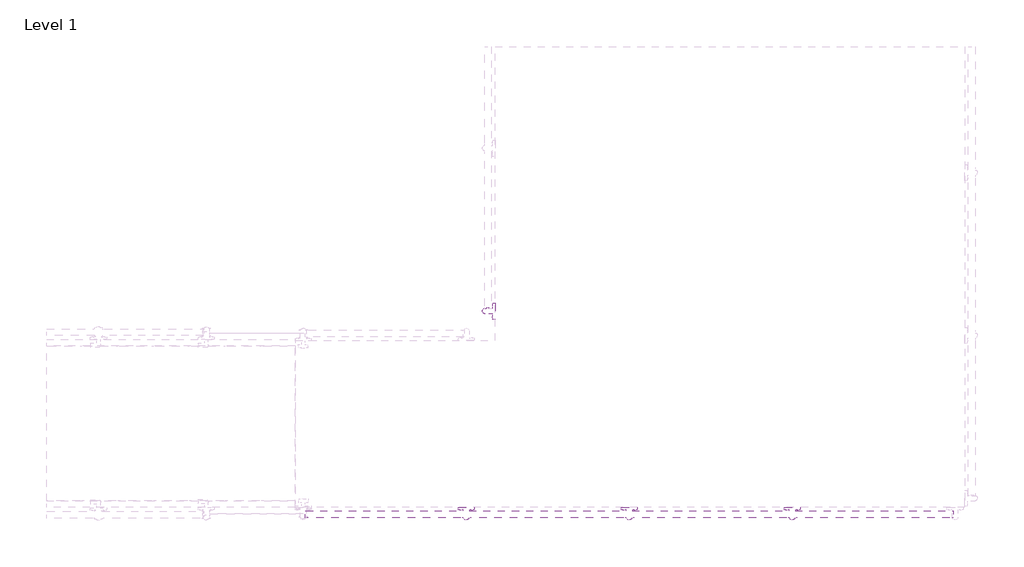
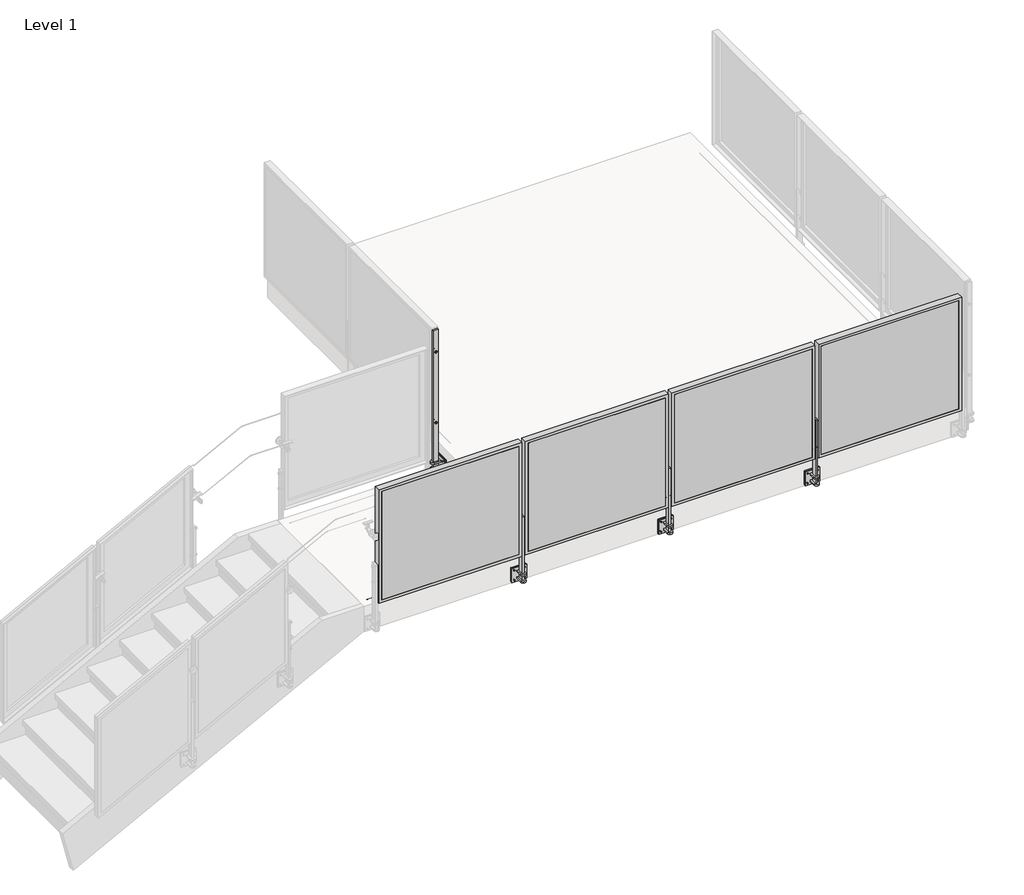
# One storey, part 26 of 37: 1 proxy, 1 railing.
"""IFC4 building model written with IfcOpenShell, lengths in millimetres."""

from ifc_helpers import new_model, si_unit, point, frame, frame_2d, origin, place, context, project, spatial, polyline, circle_curve, trimmed, segment, composite_curve, outline, extrude, faceted_brep, transform, mapped, element, save
from ifc_brep_helpers import plane_surface, cylinder_surface, advanced_brep
from components import baluster_end_post_viva_frame_top_mount_welded_fascia_mount_7cfda481

model = new_model("IFC4")

# Units and contexts
model_context = context("Model", 3, world=origin())
ifc_project = project(units=[si_unit("LENGTHUNIT", "METRE", prefix="MILLI")], contexts=[model_context])

# Site, building, storey
site = spatial("IfcSite", under=ifc_project)
building = spatial("IfcBuilding", under=site)
storey = spatial("IfcBuildingStorey", under=building, Name="Level 1", Elevation=0.0)

# Proxy
placement = place(None, origin())
baluster_end_post_viva_frame_top_mount_welded_fascia_mount_shape = baluster_end_post_viva_frame_top_mount_welded_fascia_mount_7cfda481(model_context)
element("IfcBuildingElementProxy", 1, Name="Baluster-End-Post-VIVA-FRAME-Top Mount : WELDED Fascia MOUNT FOLD_STRAIGHT", ObjectType="Baluster-End-Post-VIVA-FRAME-Top Mount : WELDED Fascia MOUNT FOLD_STRAIGHT", at=placement, inside=storey, context=model_context, shape_type="MappedRepresentation", body=[
    mapped(baluster_end_post_viva_frame_top_mount_welded_fascia_mount_shape, transform((-5845.6776401, -2383.0312725, 3047.492), x_axis=(0.0, -1.0, 0.0), y_axis=(1.0, 0.0, 0.0), z_axis=(0.0, 0.0, 1.0))),
])

# Railing
element("IfcRailing", 2, ObjectType="Metal-Panel-VIVA-FRAME-Fascia-Straight", at=placement, inside=storey, context=model_context, shape_type="SolidModel", body=[
    extrude(outline(composite_curve([segment(trimmed(circle_curve(frame_2d((-3841.0034112, 3047.746)), 0.254), [point((-3841.2574112, 3047.746))], [point((-3840.7494112, 3047.746))], False, "CARTESIAN"), True, "CONTINUOUS"), segment(trimmed(circle_curve(frame_2d((-3841.0034112, 3047.746)), 0.254), [point((-3840.7494112, 3047.746))], [point((-3841.2574112, 3047.746))], False, "CARTESIAN"), True, "CONTINUOUS")], self_intersect=False)), frame((-7412.9434339, 0.0, 0.0), z_axis=(1.0, 0.0, 0.0), x_axis=(0.0, 1.0, 0.0)), (0.0, 0.0, 1.0), 5080.0),
    extrude(outline(composite_curve([segment(trimmed(circle_curve(frame_2d((-3841.0034112, 3047.746)), 0.254), [point((-3841.2574112, 3047.746))], [point((-3840.7494112, 3047.746))], False, "CARTESIAN"), True, "CONTINUOUS"), segment(trimmed(circle_curve(frame_2d((-3841.0034112, 3047.746)), 0.254), [point((-3840.7494112, 3047.746))], [point((-3841.2574112, 3047.746))], False, "CARTESIAN"), True, "CONTINUOUS")], self_intersect=False)), frame((-7412.9434339, 0.0, 0.0), z_axis=(1.0, 0.0, 0.0), x_axis=(0.0, 1.0, 0.0)), (0.0, 0.0, 1.0), 5080.0),
    extrude(outline(polyline([(-3562.1169769, -3995.4622112), (-3562.1169769, -3992.4622112), (-2373.7698908, -3992.4622112), (-2373.7698908, -3995.4622112), (-3562.1169769, -3995.4622112)])), frame((0.0, 0.0, 3124.1959569), z_axis=(0.0, 0.0, 1.0), x_axis=(1.0, 0.0, 0.0)), (0.0, 0.0, 1.0), 990.5826861),
    faceted_brep([(-3587.5169769, -3995.4622112, 4140.1786431), (-3587.5169769, -3995.4622112, 3098.7959569), (-2348.3698908, -3995.4622112, 3098.7959569), (-2348.3698908, -3995.4622112, 4140.1786431), (-3562.1169769, -3995.4622112, 4114.7786431), (-2373.7698908, -3995.4622112, 4114.7786431), (-2373.7698908, -3995.4622112, 3124.1959569), (-3562.1169769, -3995.4622112, 3124.1959569), (-2373.7698908, -3992.4622112, 3124.1959569), (-3562.1169769, -3992.4622112, 3124.1959569), (-2373.7698908, -3992.4622112, 4114.7786431), (-3562.1169769, -3992.4622112, 4114.7786431), (-3581.5225769, -3941.6622112, 3104.7903569), (-3581.5225769, -3972.4724112, 3104.7903569), (-2354.3642908, -3972.4724112, 3104.7903569), (-2354.3642908, -3941.6622112, 3104.7903569), (-2354.3642908, -3972.4724112, 4134.1842431), (-2354.3642908, -3941.6622112, 4134.1842431), (-3581.5225769, -3941.6622112, 4134.1842431), (-3581.5225769, -3972.4724112, 4134.1842431), (-2348.3698908, -3941.6622112, 3098.7959569), (-3587.5169769, -3941.6622112, 3098.7959569), (-3587.5169769, -3941.6622112, 4140.1786431), (-2348.3698908, -3941.6622112, 4140.1786431), (-3536.7169769, -3992.4622112, 4089.3786431), (-2399.1698908, -3992.4622112, 4089.3786431), (-2399.1698908, -3992.4622112, 3149.5959569), (-3536.7169769, -3992.4622112, 3149.5959569), (-2399.1698908, -3972.4724112, 3149.5959569), (-2399.1698908, -3972.4724112, 4089.3786431), (-3536.7169769, -3972.4724112, 4089.3786431), (-3536.7169769, -3972.4724112, 3149.5959569)], [[[0, 1, 2, 3], [4, 5, 6, 7]], [[7, 6, 8, 9]], [[6, 5, 10, 8]], [[5, 4, 11, 10]], [[4, 7, 9, 11]], [[12, 13, 14, 15]], [[15, 14, 16, 17]], [[13, 12, 18, 19]], [[20, 21, 22, 23], [12, 15, 17, 18]], [[21, 1, 0, 22]], [[21, 20, 2, 1]], [[2, 20, 23, 3]], [[22, 0, 3, 23]], [[11, 9, 8, 10], [24, 25, 26, 27]], [[14, 13, 19, 16], [28, 29, 30, 31]], [[19, 18, 17, 16]], [[25, 24, 30, 29]], [[26, 25, 29, 28]], [[27, 26, 28, 31]], [[24, 27, 31, 30]]]),
    extrude(outline(composite_curve([segment(polyline([(-3625.1684339, -3989.8871179), (-3625.1684339, -3931.9862112), (-3580.7184339, -3931.9862112), (-3580.7184339, -3989.8871179)]), True, "CONTINUOUS"), segment(trimmed(circle_curve(frame_2d((-3602.9434339, -3989.8871179)), 22.225), [point((-3580.7184339, -3989.8871179))], [point((-3625.1684339, -3989.8871179))], False, "CARTESIAN"), True, "CONTINUOUS")], self_intersect=False)), frame((0.0, 0.0, 2859.0748), z_axis=(0.0, 0.0, 1.0), x_axis=(1.0, 0.0, 0.0)), (0.0, 0.0, 1.0), 12.7),
    extrude(outline(composite_curve([segment(polyline([(-3580.7184339, -3931.9862112), (-3580.7184339, -3989.8871179)]), True, "CONTINUOUS"), segment(trimmed(circle_curve(frame_2d((-3602.9434339, -3989.8871179)), 22.225), [point((-3580.7184339, -3989.8871179))], [point((-3625.1684339, -3989.8871179))], False, "CARTESIAN"), True, "CONTINUOUS"), segment(polyline([(-3625.1684339, -3989.8871179), (-3625.1684339, -3931.9862112), (-3580.7184339, -3931.9862112)]), True, "CONTINUOUS")], self_intersect=False)), frame((0.0, 0.0, 2921.0), z_axis=(0.0, 0.0, 1.0), x_axis=(1.0, 0.0, 0.0)), (0.0, 0.0, 1.0), 12.7),
    extrude(outline(composite_curve([segment(trimmed(circle_curve(frame_2d((2941.6502, -3558.498502)), 4.7752), [point((2941.6502, -3553.723302))], [point((2941.6502, -3563.273702))], False, "CARTESIAN"), True, "CONTINUOUS"), segment(trimmed(circle_curve(frame_2d((2941.6502, -3558.498502)), 4.7752), [point((2941.6502, -3563.273702))], [point((2941.6502, -3553.723302))], False, "CARTESIAN"), True, "CONTINUOUS")], self_intersect=False)), frame((0.0, -3936.7614112, 0.0), z_axis=(0.0, 1.0, 0.0), x_axis=(0.0, 0.0, 1.0)), (0.0, 0.0, 1.0), 14.3002),
    extrude(outline(composite_curve([segment(trimmed(circle_curve(frame_2d((2941.6502, -3647.3883657)), 4.7752), [point((2941.6502, -3642.6131657))], [point((2941.6502, -3652.1635657))], False, "CARTESIAN"), True, "CONTINUOUS"), segment(trimmed(circle_curve(frame_2d((2941.6502, -3647.3883657)), 4.7752), [point((2941.6502, -3652.1635657))], [point((2941.6502, -3642.6131657))], False, "CARTESIAN"), True, "CONTINUOUS")], self_intersect=False)), frame((0.0, -3936.7614112, 0.0), z_axis=(0.0, 1.0, 0.0), x_axis=(0.0, 0.0, 1.0)), (0.0, 0.0, 1.0), 14.3002),
    extrude(outline(composite_curve([segment(trimmed(circle_curve(frame_2d((2852.7502, -3647.3883657)), 4.7752), [point((2852.7502, -3642.6131657))], [point((2852.7502, -3652.1635657))], False, "CARTESIAN"), True, "CONTINUOUS"), segment(trimmed(circle_curve(frame_2d((2852.7502, -3647.3883657)), 4.7752), [point((2852.7502, -3652.1635657))], [point((2852.7502, -3642.6131657))], False, "CARTESIAN"), True, "CONTINUOUS")], self_intersect=False)), frame((0.0, -3936.7614112, 0.0), z_axis=(0.0, 1.0, 0.0), x_axis=(0.0, 0.0, 1.0)), (0.0, 0.0, 1.0), 14.3002),
    extrude(outline(composite_curve([segment(trimmed(circle_curve(frame_2d((2852.7502, -3558.498502)), 4.7752), [point((2852.7502, -3553.723302))], [point((2852.7502, -3563.273702))], False, "CARTESIAN"), True, "CONTINUOUS"), segment(trimmed(circle_curve(frame_2d((2852.7502, -3558.498502)), 4.7752), [point((2852.7502, -3563.273702))], [point((2852.7502, -3553.723302))], False, "CARTESIAN"), True, "CONTINUOUS")], self_intersect=False)), frame((0.0, -3936.7614112, 0.0), z_axis=(0.0, 1.0, 0.0), x_axis=(0.0, 0.0, 1.0)), (0.0, 0.0, 1.0), 14.3002),
    extrude(outline(polyline([(-3539.4454123, -3922.4612112), (-3666.4414554, -3922.4612112), (-3666.4414554, -3912.9362112), (-3539.4454123, -3912.9362112), (-3539.4454123, -3922.4612112)])), frame((0.0, 0.0, 2833.7002), z_axis=(0.0, 0.0, 1.0), x_axis=(1.0, 0.0, 0.0)), (0.0, 0.0, 1.0), 127.0),
    extrude(outline(polyline([(-3539.4454123, -3931.9862112), (-3666.4414554, -3931.9862112), (-3666.4414554, -3922.4612112), (-3539.4454123, -3922.4612112), (-3539.4454123, -3931.9862112)])), frame((0.0, 0.0, 2833.7002), z_axis=(0.0, 0.0, 1.0), x_axis=(1.0, 0.0, 0.0)), (0.0, 0.0, 1.0), 127.0),
    advanced_brep(
    [(-3629.1308339, -3970.0862112, 3178.1496), (-3629.1308339, -3970.0862112, 3197.2504), (-3629.1308339, -3970.0862112, 3187.7), (-3624.3556339, -3970.0862112, 3178.1496), (-3624.3556339, -3970.0862112, 3197.2504), (-3624.3556339, -3970.0862112, 3182.9248), (-3624.3556339, -3970.0862112, 3192.4752), (-3581.5312339, -3970.0862112, 3182.9248), (-3581.5312339, -3970.0862112, 3192.4752), (-3581.5312339, -3970.0862112, 3178.1496), (-3581.5312339, -3970.0862112, 3197.2504), (-3576.7560339, -3970.0862112, 3178.1496), (-3576.7560339, -3970.0862112, 3197.2504), (-3576.7560339, -3970.0862112, 3187.7)],
    [
        (0, 1, circle_curve(frame((-3629.1308339, -3970.0862112, 3187.7), z_axis=(-1.0, 0.0, 0.0), x_axis=(0.0, 0.0, 1.0)), 9.5504)),
        (1, 2),
        (2, 0),
        (1, 0, circle_curve(frame((-3629.1308339, -3970.0862112, 3187.7), z_axis=(-1.0, 0.0, 0.0), x_axis=(0.0, 0.0, 1.0)), 9.5504)),
        (3, 4, circle_curve(frame((-3624.3556339, -3970.0862112, 3187.7), z_axis=(-1.0, 0.0, 0.0), x_axis=(0.0, 0.0, 1.0)), 9.5504)),
        (4, 1),
        (0, 3),
        (4, 3, circle_curve(frame((-3624.3556339, -3970.0862112, 3187.7), z_axis=(-1.0, 0.0, 0.0), x_axis=(0.0, 0.0, 1.0)), 9.5504)),
        (5, 6, circle_curve(frame((-3624.3556339, -3970.0862112, 3187.7), z_axis=(-1.0, 0.0, 0.0), x_axis=(0.0, 0.0, 1.0)), 4.7752)),
        (6, 4),
        (3, 5),
        (6, 5, circle_curve(frame((-3624.3556339, -3970.0862112, 3187.7), z_axis=(-1.0, 0.0, 0.0), x_axis=(0.0, 0.0, 1.0)), 4.7752)),
        (7, 8, circle_curve(frame((-3581.5312339, -3970.0862112, 3187.7), z_axis=(-1.0, 0.0, 0.0), x_axis=(0.0, 0.0, 1.0)), 4.7752)),
        (8, 6),
        (5, 7),
        (8, 7, circle_curve(frame((-3581.5312339, -3970.0862112, 3187.7), z_axis=(-1.0, 0.0, 0.0), x_axis=(0.0, 0.0, 1.0)), 4.7752)),
        (9, 10, circle_curve(frame((-3581.5312339, -3970.0862112, 3187.7), z_axis=(-1.0, 0.0, 0.0), x_axis=(0.0, 0.0, 1.0)), 9.5504)),
        (10, 8),
        (7, 9),
        (10, 9, circle_curve(frame((-3581.5312339, -3970.0862112, 3187.7), z_axis=(-1.0, 0.0, 0.0), x_axis=(0.0, 0.0, 1.0)), 9.5504)),
        (11, 12, circle_curve(frame((-3576.7560339, -3970.0862112, 3187.7), z_axis=(-1.0, 0.0, 0.0), x_axis=(0.0, 0.0, 1.0)), 9.5504)),
        (12, 10),
        (9, 11),
        (12, 11, circle_curve(frame((-3576.7560339, -3970.0862112, 3187.7), z_axis=(-1.0, 0.0, 0.0), x_axis=(0.0, 0.0, 1.0)), 9.5504)),
        (13, 12),
        (11, 13),
    ],
    [
        plane_surface(frame((-3629.1308339, -3970.0862112, 3187.7), z_axis=(-1.0, 0.0, 0.0), x_axis=(0.0, 0.0, 1.0))),
        cylinder_surface(frame((-7020.711191, -3970.0862112, 3187.7), z_axis=(1.0, 0.0, 0.0), x_axis=(0.0, 0.0, 1.0)), 9.5504),
        plane_surface(frame((-3624.3556339, -3970.0862112, 3187.7), z_axis=(1.0, 0.0, 0.0), x_axis=(0.0, 0.0, 1.0))),
        cylinder_surface(frame((-7020.711191, -3970.0862112, 3187.7), z_axis=(1.0, 0.0, 0.0), x_axis=(0.0, 0.0, 1.0)), 4.7752),
        plane_surface(frame((-3581.5312339, -3970.0862112, 3187.7), z_axis=(-1.0, 0.0, 0.0), x_axis=(0.0, 0.0, 1.0))),
        plane_surface(frame((-3576.7560339, -3970.0862112, 3187.7), z_axis=(1.0, 0.0, 0.0), x_axis=(0.0, 0.0, 1.0))),
    ],
    [
        (0, [[1, 2, 3]]),
        (0, [[4, -3, -2]]),
        (1, [[5, 6, -1, 7]]),
        (1, [[8, -7, -4, -6]]),
        (2, [[9, 10, -5, 11]]),
        (2, [[12, -11, -8, -10]]),
        (3, [[13, 14, -9, 15]]),
        (3, [[16, -15, -12, -14]]),
        (4, [[17, 18, -13, 19]]),
        (4, [[20, -19, -16, -18]]),
        (1, [[21, 22, -17, 23]]),
        (1, [[24, -23, -20, -22]]),
        (5, [[25, -21, 26]]),
        (5, [[-26, -24, -25]]),
    ],
),
    advanced_brep(
    [(-3629.1308339, -3970.0862112, 3419.4496), (-3629.1308339, -3970.0862112, 3438.5504), (-3629.1308339, -3970.0862112, 3429.0), (-3624.3556339, -3970.0862112, 3419.4496), (-3624.3556339, -3970.0862112, 3438.5504), (-3624.3556339, -3970.0862112, 3424.2248), (-3624.3556339, -3970.0862112, 3433.7752), (-3581.5312339, -3970.0862112, 3424.2248), (-3581.5312339, -3970.0862112, 3433.7752), (-3581.5312339, -3970.0862112, 3419.4496), (-3581.5312339, -3970.0862112, 3438.5504), (-3576.7560339, -3970.0862112, 3419.4496), (-3576.7560339, -3970.0862112, 3438.5504), (-3576.7560339, -3970.0862112, 3429.0)],
    [
        (0, 1, circle_curve(frame((-3629.1308339, -3970.0862112, 3429.0), z_axis=(-1.0, 0.0, 0.0), x_axis=(0.0, 0.0, 1.0)), 9.5504)),
        (1, 2),
        (2, 0),
        (1, 0, circle_curve(frame((-3629.1308339, -3970.0862112, 3429.0), z_axis=(-1.0, 0.0, 0.0), x_axis=(0.0, 0.0, 1.0)), 9.5504)),
        (3, 4, circle_curve(frame((-3624.3556339, -3970.0862112, 3429.0), z_axis=(-1.0, 0.0, 0.0), x_axis=(0.0, 0.0, 1.0)), 9.5504)),
        (4, 1),
        (0, 3),
        (4, 3, circle_curve(frame((-3624.3556339, -3970.0862112, 3429.0), z_axis=(-1.0, 0.0, 0.0), x_axis=(0.0, 0.0, 1.0)), 9.5504)),
        (5, 6, circle_curve(frame((-3624.3556339, -3970.0862112, 3429.0), z_axis=(-1.0, 0.0, 0.0), x_axis=(0.0, 0.0, 1.0)), 4.7752)),
        (6, 4),
        (3, 5),
        (6, 5, circle_curve(frame((-3624.3556339, -3970.0862112, 3429.0), z_axis=(-1.0, 0.0, 0.0), x_axis=(0.0, 0.0, 1.0)), 4.7752)),
        (7, 8, circle_curve(frame((-3581.5312339, -3970.0862112, 3429.0), z_axis=(-1.0, 0.0, 0.0), x_axis=(0.0, 0.0, 1.0)), 4.7752)),
        (8, 6),
        (5, 7),
        (8, 7, circle_curve(frame((-3581.5312339, -3970.0862112, 3429.0), z_axis=(-1.0, 0.0, 0.0), x_axis=(0.0, 0.0, 1.0)), 4.7752)),
        (9, 10, circle_curve(frame((-3581.5312339, -3970.0862112, 3429.0), z_axis=(-1.0, 0.0, 0.0), x_axis=(0.0, 0.0, 1.0)), 9.5504)),
        (10, 8),
        (7, 9),
        (10, 9, circle_curve(frame((-3581.5312339, -3970.0862112, 3429.0), z_axis=(-1.0, 0.0, 0.0), x_axis=(0.0, 0.0, 1.0)), 9.5504)),
        (11, 12, circle_curve(frame((-3576.7560339, -3970.0862112, 3429.0), z_axis=(-1.0, 0.0, 0.0), x_axis=(0.0, 0.0, 1.0)), 9.5504)),
        (12, 10),
        (9, 11),
        (12, 11, circle_curve(frame((-3576.7560339, -3970.0862112, 3429.0), z_axis=(-1.0, 0.0, 0.0), x_axis=(0.0, 0.0, 1.0)), 9.5504)),
        (13, 12),
        (11, 13),
    ],
    [
        plane_surface(frame((-3629.1308339, -3970.0862112, 3429.0), z_axis=(-1.0, 0.0, 0.0), x_axis=(0.0, 0.0, 1.0))),
        cylinder_surface(frame((-7020.711191, -3970.0862112, 3429.0), z_axis=(1.0, 0.0, 0.0), x_axis=(0.0, 0.0, 1.0)), 9.5504),
        plane_surface(frame((-3624.3556339, -3970.0862112, 3429.0), z_axis=(1.0, 0.0, 0.0), x_axis=(0.0, 0.0, 1.0))),
        cylinder_surface(frame((-7020.711191, -3970.0862112, 3429.0), z_axis=(1.0, 0.0, 0.0), x_axis=(0.0, 0.0, 1.0)), 4.7752),
        plane_surface(frame((-3581.5312339, -3970.0862112, 3429.0), z_axis=(-1.0, 0.0, 0.0), x_axis=(0.0, 0.0, 1.0))),
        plane_surface(frame((-3576.7560339, -3970.0862112, 3429.0), z_axis=(1.0, 0.0, 0.0), x_axis=(0.0, 0.0, 1.0))),
    ],
    [
        (0, [[1, 2, 3]]),
        (0, [[4, -3, -2]]),
        (1, [[5, 6, -1, 7]]),
        (1, [[8, -7, -4, -6]]),
        (2, [[9, 10, -5, 11]]),
        (2, [[12, -11, -8, -10]]),
        (3, [[13, 14, -9, 15]]),
        (3, [[16, -15, -12, -14]]),
        (4, [[17, 18, -13, 19]]),
        (4, [[20, -19, -16, -18]]),
        (1, [[21, 22, -17, 23]]),
        (1, [[24, -23, -20, -22]]),
        (5, [[25, -21, 26]]),
        (5, [[-26, -24, -25]]),
    ],
),
    extrude(outline(polyline([(-3610.8830255, -3947.8612112), (-3595.0038422, -3947.8612112), (-3595.0038422, -3992.3112112), (-3610.8830255, -3992.3112112), (-3610.8830255, -3947.8612112)])), frame((0.0, 0.0, 2865.4248), z_axis=(0.0, 0.0, 1.0), x_axis=(1.0, 0.0, 0.0)), (0.0, 0.0, 1.0), 588.9752),
    extrude(outline(polyline([(-4832.1169769, -3995.4622112), (-4832.1169769, -3992.4622112), (-3643.7698908, -3992.4622112), (-3643.7698908, -3995.4622112), (-4832.1169769, -3995.4622112)])), frame((0.0, 0.0, 3124.1959569), z_axis=(0.0, 0.0, 1.0), x_axis=(1.0, 0.0, 0.0)), (0.0, 0.0, 1.0), 990.5826861),
    faceted_brep([(-4857.5169769, -3995.4622112, 4140.1786431), (-4857.5169769, -3995.4622112, 3098.7959569), (-3618.3698908, -3995.4622112, 3098.7959569), (-3618.3698908, -3995.4622112, 4140.1786431), (-4832.1169769, -3995.4622112, 4114.7786431), (-3643.7698908, -3995.4622112, 4114.7786431), (-3643.7698908, -3995.4622112, 3124.1959569), (-4832.1169769, -3995.4622112, 3124.1959569), (-3643.7698908, -3992.4622112, 3124.1959569), (-4832.1169769, -3992.4622112, 3124.1959569), (-3643.7698908, -3992.4622112, 4114.7786431), (-4832.1169769, -3992.4622112, 4114.7786431), (-4851.5225769, -3941.6622112, 3104.7903569), (-4851.5225769, -3972.4724112, 3104.7903569), (-3624.3642908, -3972.4724112, 3104.7903569), (-3624.3642908, -3941.6622112, 3104.7903569), (-3624.3642908, -3972.4724112, 4134.1842431), (-3624.3642908, -3941.6622112, 4134.1842431), (-4851.5225769, -3941.6622112, 4134.1842431), (-4851.5225769, -3972.4724112, 4134.1842431), (-3618.3698908, -3941.6622112, 3098.7959569), (-4857.5169769, -3941.6622112, 3098.7959569), (-4857.5169769, -3941.6622112, 4140.1786431), (-3618.3698908, -3941.6622112, 4140.1786431), (-4806.7169769, -3992.4622112, 4089.3786431), (-3669.1698908, -3992.4622112, 4089.3786431), (-3669.1698908, -3992.4622112, 3149.5959569), (-4806.7169769, -3992.4622112, 3149.5959569), (-3669.1698908, -3972.4724112, 3149.5959569), (-3669.1698908, -3972.4724112, 4089.3786431), (-4806.7169769, -3972.4724112, 4089.3786431), (-4806.7169769, -3972.4724112, 3149.5959569)], [[[0, 1, 2, 3], [4, 5, 6, 7]], [[7, 6, 8, 9]], [[6, 5, 10, 8]], [[5, 4, 11, 10]], [[4, 7, 9, 11]], [[12, 13, 14, 15]], [[15, 14, 16, 17]], [[13, 12, 18, 19]], [[20, 21, 22, 23], [12, 15, 17, 18]], [[21, 1, 0, 22]], [[21, 20, 2, 1]], [[2, 20, 23, 3]], [[22, 0, 3, 23]], [[11, 9, 8, 10], [24, 25, 26, 27]], [[14, 13, 19, 16], [28, 29, 30, 31]], [[19, 18, 17, 16]], [[25, 24, 30, 29]], [[26, 25, 29, 28]], [[27, 26, 28, 31]], [[24, 27, 31, 30]]]),
    extrude(outline(composite_curve([segment(polyline([(-4895.1684339, -3989.8871179), (-4895.1684339, -3931.9862112), (-4850.7184339, -3931.9862112), (-4850.7184339, -3989.8871179)]), True, "CONTINUOUS"), segment(trimmed(circle_curve(frame_2d((-4872.9434339, -3989.8871179)), 22.225), [point((-4850.7184339, -3989.8871179))], [point((-4895.1684339, -3989.8871179))], False, "CARTESIAN"), True, "CONTINUOUS")], self_intersect=False)), frame((0.0, 0.0, 2859.0748), z_axis=(0.0, 0.0, 1.0), x_axis=(1.0, 0.0, 0.0)), (0.0, 0.0, 1.0), 12.7),
    extrude(outline(composite_curve([segment(polyline([(-4850.7184339, -3931.9862112), (-4850.7184339, -3989.8871179)]), True, "CONTINUOUS"), segment(trimmed(circle_curve(frame_2d((-4872.9434339, -3989.8871179)), 22.225), [point((-4850.7184339, -3989.8871179))], [point((-4895.1684339, -3989.8871179))], False, "CARTESIAN"), True, "CONTINUOUS"), segment(polyline([(-4895.1684339, -3989.8871179), (-4895.1684339, -3931.9862112), (-4850.7184339, -3931.9862112)]), True, "CONTINUOUS")], self_intersect=False)), frame((0.0, 0.0, 2921.0), z_axis=(0.0, 0.0, 1.0), x_axis=(1.0, 0.0, 0.0)), (0.0, 0.0, 1.0), 12.7),
    extrude(outline(composite_curve([segment(trimmed(circle_curve(frame_2d((2941.6502, -4828.498502)), 4.7752), [point((2941.6502, -4823.723302))], [point((2941.6502, -4833.273702))], False, "CARTESIAN"), True, "CONTINUOUS"), segment(trimmed(circle_curve(frame_2d((2941.6502, -4828.498502)), 4.7752), [point((2941.6502, -4833.273702))], [point((2941.6502, -4823.723302))], False, "CARTESIAN"), True, "CONTINUOUS")], self_intersect=False)), frame((0.0, -3936.7614112, 0.0), z_axis=(0.0, 1.0, 0.0), x_axis=(0.0, 0.0, 1.0)), (0.0, 0.0, 1.0), 14.3002),
    extrude(outline(composite_curve([segment(trimmed(circle_curve(frame_2d((2941.6502, -4917.3883657)), 4.7752), [point((2941.6502, -4912.6131657))], [point((2941.6502, -4922.1635657))], False, "CARTESIAN"), True, "CONTINUOUS"), segment(trimmed(circle_curve(frame_2d((2941.6502, -4917.3883657)), 4.7752), [point((2941.6502, -4922.1635657))], [point((2941.6502, -4912.6131657))], False, "CARTESIAN"), True, "CONTINUOUS")], self_intersect=False)), frame((0.0, -3936.7614112, 0.0), z_axis=(0.0, 1.0, 0.0), x_axis=(0.0, 0.0, 1.0)), (0.0, 0.0, 1.0), 14.3002),
    extrude(outline(composite_curve([segment(trimmed(circle_curve(frame_2d((2852.7502, -4917.3883657)), 4.7752), [point((2852.7502, -4912.6131657))], [point((2852.7502, -4922.1635657))], False, "CARTESIAN"), True, "CONTINUOUS"), segment(trimmed(circle_curve(frame_2d((2852.7502, -4917.3883657)), 4.7752), [point((2852.7502, -4922.1635657))], [point((2852.7502, -4912.6131657))], False, "CARTESIAN"), True, "CONTINUOUS")], self_intersect=False)), frame((0.0, -3936.7614112, 0.0), z_axis=(0.0, 1.0, 0.0), x_axis=(0.0, 0.0, 1.0)), (0.0, 0.0, 1.0), 14.3002),
    extrude(outline(composite_curve([segment(trimmed(circle_curve(frame_2d((2852.7502, -4828.498502)), 4.7752), [point((2852.7502, -4823.723302))], [point((2852.7502, -4833.273702))], False, "CARTESIAN"), True, "CONTINUOUS"), segment(trimmed(circle_curve(frame_2d((2852.7502, -4828.498502)), 4.7752), [point((2852.7502, -4833.273702))], [point((2852.7502, -4823.723302))], False, "CARTESIAN"), True, "CONTINUOUS")], self_intersect=False)), frame((0.0, -3936.7614112, 0.0), z_axis=(0.0, 1.0, 0.0), x_axis=(0.0, 0.0, 1.0)), (0.0, 0.0, 1.0), 14.3002),
    extrude(outline(polyline([(-4809.4454123, -3922.4612112), (-4936.4414554, -3922.4612112), (-4936.4414554, -3912.9362112), (-4809.4454123, -3912.9362112), (-4809.4454123, -3922.4612112)])), frame((0.0, 0.0, 2833.7002), z_axis=(0.0, 0.0, 1.0), x_axis=(1.0, 0.0, 0.0)), (0.0, 0.0, 1.0), 127.0),
    extrude(outline(polyline([(-4809.4454123, -3931.9862112), (-4936.4414554, -3931.9862112), (-4936.4414554, -3922.4612112), (-4809.4454123, -3922.4612112), (-4809.4454123, -3931.9862112)])), frame((0.0, 0.0, 2833.7002), z_axis=(0.0, 0.0, 1.0), x_axis=(1.0, 0.0, 0.0)), (0.0, 0.0, 1.0), 127.0),
    advanced_brep(
    [(-4899.1308339, -3970.0862112, 3178.1496), (-4899.1308339, -3970.0862112, 3197.2504), (-4899.1308339, -3970.0862112, 3187.7), (-4894.3556339, -3970.0862112, 3178.1496), (-4894.3556339, -3970.0862112, 3197.2504), (-4894.3556339, -3970.0862112, 3182.9248), (-4894.3556339, -3970.0862112, 3192.4752), (-4851.5312339, -3970.0862112, 3182.9248), (-4851.5312339, -3970.0862112, 3192.4752), (-4851.5312339, -3970.0862112, 3178.1496), (-4851.5312339, -3970.0862112, 3197.2504), (-4846.7560339, -3970.0862112, 3178.1496), (-4846.7560339, -3970.0862112, 3197.2504), (-4846.7560339, -3970.0862112, 3187.7)],
    [
        (0, 1, circle_curve(frame((-4899.1308339, -3970.0862112, 3187.7), z_axis=(-1.0, 0.0, 0.0), x_axis=(0.0, 0.0, 1.0)), 9.5504)),
        (1, 2),
        (2, 0),
        (1, 0, circle_curve(frame((-4899.1308339, -3970.0862112, 3187.7), z_axis=(-1.0, 0.0, 0.0), x_axis=(0.0, 0.0, 1.0)), 9.5504)),
        (3, 4, circle_curve(frame((-4894.3556339, -3970.0862112, 3187.7), z_axis=(-1.0, 0.0, 0.0), x_axis=(0.0, 0.0, 1.0)), 9.5504)),
        (4, 1),
        (0, 3),
        (4, 3, circle_curve(frame((-4894.3556339, -3970.0862112, 3187.7), z_axis=(-1.0, 0.0, 0.0), x_axis=(0.0, 0.0, 1.0)), 9.5504)),
        (5, 6, circle_curve(frame((-4894.3556339, -3970.0862112, 3187.7), z_axis=(-1.0, 0.0, 0.0), x_axis=(0.0, 0.0, 1.0)), 4.7752)),
        (6, 4),
        (3, 5),
        (6, 5, circle_curve(frame((-4894.3556339, -3970.0862112, 3187.7), z_axis=(-1.0, 0.0, 0.0), x_axis=(0.0, 0.0, 1.0)), 4.7752)),
        (7, 8, circle_curve(frame((-4851.5312339, -3970.0862112, 3187.7), z_axis=(-1.0, 0.0, 0.0), x_axis=(0.0, 0.0, 1.0)), 4.7752)),
        (8, 6),
        (5, 7),
        (8, 7, circle_curve(frame((-4851.5312339, -3970.0862112, 3187.7), z_axis=(-1.0, 0.0, 0.0), x_axis=(0.0, 0.0, 1.0)), 4.7752)),
        (9, 10, circle_curve(frame((-4851.5312339, -3970.0862112, 3187.7), z_axis=(-1.0, 0.0, 0.0), x_axis=(0.0, 0.0, 1.0)), 9.5504)),
        (10, 8),
        (7, 9),
        (10, 9, circle_curve(frame((-4851.5312339, -3970.0862112, 3187.7), z_axis=(-1.0, 0.0, 0.0), x_axis=(0.0, 0.0, 1.0)), 9.5504)),
        (11, 12, circle_curve(frame((-4846.7560339, -3970.0862112, 3187.7), z_axis=(-1.0, 0.0, 0.0), x_axis=(0.0, 0.0, 1.0)), 9.5504)),
        (12, 10),
        (9, 11),
        (12, 11, circle_curve(frame((-4846.7560339, -3970.0862112, 3187.7), z_axis=(-1.0, 0.0, 0.0), x_axis=(0.0, 0.0, 1.0)), 9.5504)),
        (13, 12),
        (11, 13),
    ],
    [
        plane_surface(frame((-4899.1308339, -3970.0862112, 3187.7), z_axis=(-1.0, 0.0, 0.0), x_axis=(0.0, 0.0, 1.0))),
        cylinder_surface(frame((-8290.711191, -3970.0862112, 3187.7), z_axis=(1.0, 0.0, 0.0), x_axis=(0.0, 0.0, 1.0)), 9.5504),
        plane_surface(frame((-4894.3556339, -3970.0862112, 3187.7), z_axis=(1.0, 0.0, 0.0), x_axis=(0.0, 0.0, 1.0))),
        cylinder_surface(frame((-8290.711191, -3970.0862112, 3187.7), z_axis=(1.0, 0.0, 0.0), x_axis=(0.0, 0.0, 1.0)), 4.7752),
        plane_surface(frame((-4851.5312339, -3970.0862112, 3187.7), z_axis=(-1.0, 0.0, 0.0), x_axis=(0.0, 0.0, 1.0))),
        plane_surface(frame((-4846.7560339, -3970.0862112, 3187.7), z_axis=(1.0, 0.0, 0.0), x_axis=(0.0, 0.0, 1.0))),
    ],
    [
        (0, [[1, 2, 3]]),
        (0, [[4, -3, -2]]),
        (1, [[5, 6, -1, 7]]),
        (1, [[8, -7, -4, -6]]),
        (2, [[9, 10, -5, 11]]),
        (2, [[12, -11, -8, -10]]),
        (3, [[13, 14, -9, 15]]),
        (3, [[16, -15, -12, -14]]),
        (4, [[17, 18, -13, 19]]),
        (4, [[20, -19, -16, -18]]),
        (1, [[21, 22, -17, 23]]),
        (1, [[24, -23, -20, -22]]),
        (5, [[25, -21, 26]]),
        (5, [[-26, -24, -25]]),
    ],
),
    advanced_brep(
    [(-4899.1308339, -3970.0862112, 3419.4496), (-4899.1308339, -3970.0862112, 3438.5504), (-4899.1308339, -3970.0862112, 3429.0), (-4894.3556339, -3970.0862112, 3419.4496), (-4894.3556339, -3970.0862112, 3438.5504), (-4894.3556339, -3970.0862112, 3424.2248), (-4894.3556339, -3970.0862112, 3433.7752), (-4851.5312339, -3970.0862112, 3424.2248), (-4851.5312339, -3970.0862112, 3433.7752), (-4851.5312339, -3970.0862112, 3419.4496), (-4851.5312339, -3970.0862112, 3438.5504), (-4846.7560339, -3970.0862112, 3419.4496), (-4846.7560339, -3970.0862112, 3438.5504), (-4846.7560339, -3970.0862112, 3429.0)],
    [
        (0, 1, circle_curve(frame((-4899.1308339, -3970.0862112, 3429.0), z_axis=(-1.0, 0.0, 0.0), x_axis=(0.0, 0.0, 1.0)), 9.5504)),
        (1, 2),
        (2, 0),
        (1, 0, circle_curve(frame((-4899.1308339, -3970.0862112, 3429.0), z_axis=(-1.0, 0.0, 0.0), x_axis=(0.0, 0.0, 1.0)), 9.5504)),
        (3, 4, circle_curve(frame((-4894.3556339, -3970.0862112, 3429.0), z_axis=(-1.0, 0.0, 0.0), x_axis=(0.0, 0.0, 1.0)), 9.5504)),
        (4, 1),
        (0, 3),
        (4, 3, circle_curve(frame((-4894.3556339, -3970.0862112, 3429.0), z_axis=(-1.0, 0.0, 0.0), x_axis=(0.0, 0.0, 1.0)), 9.5504)),
        (5, 6, circle_curve(frame((-4894.3556339, -3970.0862112, 3429.0), z_axis=(-1.0, 0.0, 0.0), x_axis=(0.0, 0.0, 1.0)), 4.7752)),
        (6, 4),
        (3, 5),
        (6, 5, circle_curve(frame((-4894.3556339, -3970.0862112, 3429.0), z_axis=(-1.0, 0.0, 0.0), x_axis=(0.0, 0.0, 1.0)), 4.7752)),
        (7, 8, circle_curve(frame((-4851.5312339, -3970.0862112, 3429.0), z_axis=(-1.0, 0.0, 0.0), x_axis=(0.0, 0.0, 1.0)), 4.7752)),
        (8, 6),
        (5, 7),
        (8, 7, circle_curve(frame((-4851.5312339, -3970.0862112, 3429.0), z_axis=(-1.0, 0.0, 0.0), x_axis=(0.0, 0.0, 1.0)), 4.7752)),
        (9, 10, circle_curve(frame((-4851.5312339, -3970.0862112, 3429.0), z_axis=(-1.0, 0.0, 0.0), x_axis=(0.0, 0.0, 1.0)), 9.5504)),
        (10, 8),
        (7, 9),
        (10, 9, circle_curve(frame((-4851.5312339, -3970.0862112, 3429.0), z_axis=(-1.0, 0.0, 0.0), x_axis=(0.0, 0.0, 1.0)), 9.5504)),
        (11, 12, circle_curve(frame((-4846.7560339, -3970.0862112, 3429.0), z_axis=(-1.0, 0.0, 0.0), x_axis=(0.0, 0.0, 1.0)), 9.5504)),
        (12, 10),
        (9, 11),
        (12, 11, circle_curve(frame((-4846.7560339, -3970.0862112, 3429.0), z_axis=(-1.0, 0.0, 0.0), x_axis=(0.0, 0.0, 1.0)), 9.5504)),
        (13, 12),
        (11, 13),
    ],
    [
        plane_surface(frame((-4899.1308339, -3970.0862112, 3429.0), z_axis=(-1.0, 0.0, 0.0), x_axis=(0.0, 0.0, 1.0))),
        cylinder_surface(frame((-8290.711191, -3970.0862112, 3429.0), z_axis=(1.0, 0.0, 0.0), x_axis=(0.0, 0.0, 1.0)), 9.5504),
        plane_surface(frame((-4894.3556339, -3970.0862112, 3429.0), z_axis=(1.0, 0.0, 0.0), x_axis=(0.0, 0.0, 1.0))),
        cylinder_surface(frame((-8290.711191, -3970.0862112, 3429.0), z_axis=(1.0, 0.0, 0.0), x_axis=(0.0, 0.0, 1.0)), 4.7752),
        plane_surface(frame((-4851.5312339, -3970.0862112, 3429.0), z_axis=(-1.0, 0.0, 0.0), x_axis=(0.0, 0.0, 1.0))),
        plane_surface(frame((-4846.7560339, -3970.0862112, 3429.0), z_axis=(1.0, 0.0, 0.0), x_axis=(0.0, 0.0, 1.0))),
    ],
    [
        (0, [[1, 2, 3]]),
        (0, [[4, -3, -2]]),
        (1, [[5, 6, -1, 7]]),
        (1, [[8, -7, -4, -6]]),
        (2, [[9, 10, -5, 11]]),
        (2, [[12, -11, -8, -10]]),
        (3, [[13, 14, -9, 15]]),
        (3, [[16, -15, -12, -14]]),
        (4, [[17, 18, -13, 19]]),
        (4, [[20, -19, -16, -18]]),
        (1, [[21, 22, -17, 23]]),
        (1, [[24, -23, -20, -22]]),
        (5, [[25, -21, 26]]),
        (5, [[-26, -24, -25]]),
    ],
),
    extrude(outline(polyline([(-4880.8830255, -3947.8612112), (-4865.0038422, -3947.8612112), (-4865.0038422, -3992.3112112), (-4880.8830255, -3992.3112112), (-4880.8830255, -3947.8612112)])), frame((0.0, 0.0, 2865.4248), z_axis=(0.0, 0.0, 1.0), x_axis=(1.0, 0.0, 0.0)), (0.0, 0.0, 1.0), 588.9752),
    extrude(outline(polyline([(-6102.1169769, -3995.4622112), (-6102.1169769, -3992.4622112), (-4913.7698908, -3992.4622112), (-4913.7698908, -3995.4622112), (-6102.1169769, -3995.4622112)])), frame((0.0, 0.0, 3124.1959569), z_axis=(0.0, 0.0, 1.0), x_axis=(1.0, 0.0, 0.0)), (0.0, 0.0, 1.0), 990.5826861),
    faceted_brep([(-6127.5169769, -3995.4622112, 4140.1786431), (-6127.5169769, -3995.4622112, 3098.7959569), (-4888.3698908, -3995.4622112, 3098.7959569), (-4888.3698908, -3995.4622112, 4140.1786431), (-6102.1169769, -3995.4622112, 4114.7786431), (-4913.7698908, -3995.4622112, 4114.7786431), (-4913.7698908, -3995.4622112, 3124.1959569), (-6102.1169769, -3995.4622112, 3124.1959569), (-4913.7698908, -3992.4622112, 3124.1959569), (-6102.1169769, -3992.4622112, 3124.1959569), (-4913.7698908, -3992.4622112, 4114.7786431), (-6102.1169769, -3992.4622112, 4114.7786431), (-6121.5225769, -3941.6622112, 3104.7903569), (-6121.5225769, -3972.4724112, 3104.7903569), (-4894.3642908, -3972.4724112, 3104.7903569), (-4894.3642908, -3941.6622112, 3104.7903569), (-4894.3642908, -3972.4724112, 4134.1842431), (-4894.3642908, -3941.6622112, 4134.1842431), (-6121.5225769, -3941.6622112, 4134.1842431), (-6121.5225769, -3972.4724112, 4134.1842431), (-4888.3698908, -3941.6622112, 3098.7959569), (-6127.5169769, -3941.6622112, 3098.7959569), (-6127.5169769, -3941.6622112, 4140.1786431), (-4888.3698908, -3941.6622112, 4140.1786431), (-6076.7169769, -3992.4622112, 4089.3786431), (-4939.1698908, -3992.4622112, 4089.3786431), (-4939.1698908, -3992.4622112, 3149.5959569), (-6076.7169769, -3992.4622112, 3149.5959569), (-4939.1698908, -3972.4724112, 3149.5959569), (-4939.1698908, -3972.4724112, 4089.3786431), (-6076.7169769, -3972.4724112, 4089.3786431), (-6076.7169769, -3972.4724112, 3149.5959569)], [[[0, 1, 2, 3], [4, 5, 6, 7]], [[7, 6, 8, 9]], [[6, 5, 10, 8]], [[5, 4, 11, 10]], [[4, 7, 9, 11]], [[12, 13, 14, 15]], [[15, 14, 16, 17]], [[13, 12, 18, 19]], [[20, 21, 22, 23], [12, 15, 17, 18]], [[21, 1, 0, 22]], [[21, 20, 2, 1]], [[2, 20, 23, 3]], [[22, 0, 3, 23]], [[11, 9, 8, 10], [24, 25, 26, 27]], [[14, 13, 19, 16], [28, 29, 30, 31]], [[19, 18, 17, 16]], [[25, 24, 30, 29]], [[26, 25, 29, 28]], [[27, 26, 28, 31]], [[24, 27, 31, 30]]]),
    extrude(outline(composite_curve([segment(polyline([(-6165.1684339, -3989.8871179), (-6165.1684339, -3931.9862112), (-6120.7184339, -3931.9862112), (-6120.7184339, -3989.8871179)]), True, "CONTINUOUS"), segment(trimmed(circle_curve(frame_2d((-6142.9434339, -3989.8871179)), 22.225), [point((-6120.7184339, -3989.8871179))], [point((-6165.1684339, -3989.8871179))], False, "CARTESIAN"), True, "CONTINUOUS")], self_intersect=False)), frame((0.0, 0.0, 2859.0748), z_axis=(0.0, 0.0, 1.0), x_axis=(1.0, 0.0, 0.0)), (0.0, 0.0, 1.0), 12.7),
    extrude(outline(composite_curve([segment(polyline([(-6120.7184339, -3931.9862112), (-6120.7184339, -3989.8871179)]), True, "CONTINUOUS"), segment(trimmed(circle_curve(frame_2d((-6142.9434339, -3989.8871179)), 22.225), [point((-6120.7184339, -3989.8871179))], [point((-6165.1684339, -3989.8871179))], False, "CARTESIAN"), True, "CONTINUOUS"), segment(polyline([(-6165.1684339, -3989.8871179), (-6165.1684339, -3931.9862112), (-6120.7184339, -3931.9862112)]), True, "CONTINUOUS")], self_intersect=False)), frame((0.0, 0.0, 2921.0), z_axis=(0.0, 0.0, 1.0), x_axis=(1.0, 0.0, 0.0)), (0.0, 0.0, 1.0), 12.7),
    extrude(outline(composite_curve([segment(trimmed(circle_curve(frame_2d((2941.6502, -6098.498502)), 4.7752), [point((2941.6502, -6093.723302))], [point((2941.6502, -6103.273702))], False, "CARTESIAN"), True, "CONTINUOUS"), segment(trimmed(circle_curve(frame_2d((2941.6502, -6098.498502)), 4.7752), [point((2941.6502, -6103.273702))], [point((2941.6502, -6093.723302))], False, "CARTESIAN"), True, "CONTINUOUS")], self_intersect=False)), frame((0.0, -3936.7614112, 0.0), z_axis=(0.0, 1.0, 0.0), x_axis=(0.0, 0.0, 1.0)), (0.0, 0.0, 1.0), 14.3002),
    extrude(outline(composite_curve([segment(trimmed(circle_curve(frame_2d((2941.6502, -6187.3883657)), 4.7752), [point((2941.6502, -6182.6131657))], [point((2941.6502, -6192.1635657))], False, "CARTESIAN"), True, "CONTINUOUS"), segment(trimmed(circle_curve(frame_2d((2941.6502, -6187.3883657)), 4.7752), [point((2941.6502, -6192.1635657))], [point((2941.6502, -6182.6131657))], False, "CARTESIAN"), True, "CONTINUOUS")], self_intersect=False)), frame((0.0, -3936.7614112, 0.0), z_axis=(0.0, 1.0, 0.0), x_axis=(0.0, 0.0, 1.0)), (0.0, 0.0, 1.0), 14.3002),
    extrude(outline(composite_curve([segment(trimmed(circle_curve(frame_2d((2852.7502, -6187.3883657)), 4.7752), [point((2852.7502, -6182.6131657))], [point((2852.7502, -6192.1635657))], False, "CARTESIAN"), True, "CONTINUOUS"), segment(trimmed(circle_curve(frame_2d((2852.7502, -6187.3883657)), 4.7752), [point((2852.7502, -6192.1635657))], [point((2852.7502, -6182.6131657))], False, "CARTESIAN"), True, "CONTINUOUS")], self_intersect=False)), frame((0.0, -3936.7614112, 0.0), z_axis=(0.0, 1.0, 0.0), x_axis=(0.0, 0.0, 1.0)), (0.0, 0.0, 1.0), 14.3002),
    extrude(outline(composite_curve([segment(trimmed(circle_curve(frame_2d((2852.7502, -6098.498502)), 4.7752), [point((2852.7502, -6093.723302))], [point((2852.7502, -6103.273702))], False, "CARTESIAN"), True, "CONTINUOUS"), segment(trimmed(circle_curve(frame_2d((2852.7502, -6098.498502)), 4.7752), [point((2852.7502, -6103.273702))], [point((2852.7502, -6093.723302))], False, "CARTESIAN"), True, "CONTINUOUS")], self_intersect=False)), frame((0.0, -3936.7614112, 0.0), z_axis=(0.0, 1.0, 0.0), x_axis=(0.0, 0.0, 1.0)), (0.0, 0.0, 1.0), 14.3002),
    extrude(outline(polyline([(-6079.4454123, -3922.4612112), (-6206.4414554, -3922.4612112), (-6206.4414554, -3912.9362112), (-6079.4454123, -3912.9362112), (-6079.4454123, -3922.4612112)])), frame((0.0, 0.0, 2833.7002), z_axis=(0.0, 0.0, 1.0), x_axis=(1.0, 0.0, 0.0)), (0.0, 0.0, 1.0), 127.0),
    extrude(outline(polyline([(-6079.4454123, -3931.9862112), (-6206.4414554, -3931.9862112), (-6206.4414554, -3922.4612112), (-6079.4454123, -3922.4612112), (-6079.4454123, -3931.9862112)])), frame((0.0, 0.0, 2833.7002), z_axis=(0.0, 0.0, 1.0), x_axis=(1.0, 0.0, 0.0)), (0.0, 0.0, 1.0), 127.0),
    advanced_brep(
    [(-6169.1308339, -3970.0862112, 3178.1496), (-6169.1308339, -3970.0862112, 3197.2504), (-6169.1308339, -3970.0862112, 3187.7), (-6164.3556339, -3970.0862112, 3178.1496), (-6164.3556339, -3970.0862112, 3197.2504), (-6164.3556339, -3970.0862112, 3182.9248), (-6164.3556339, -3970.0862112, 3192.4752), (-6121.5312339, -3970.0862112, 3182.9248), (-6121.5312339, -3970.0862112, 3192.4752), (-6121.5312339, -3970.0862112, 3178.1496), (-6121.5312339, -3970.0862112, 3197.2504), (-6116.7560339, -3970.0862112, 3178.1496), (-6116.7560339, -3970.0862112, 3197.2504), (-6116.7560339, -3970.0862112, 3187.7)],
    [
        (0, 1, circle_curve(frame((-6169.1308339, -3970.0862112, 3187.7), z_axis=(-1.0, 0.0, 0.0), x_axis=(0.0, 0.0, 1.0)), 9.5504)),
        (1, 2),
        (2, 0),
        (1, 0, circle_curve(frame((-6169.1308339, -3970.0862112, 3187.7), z_axis=(-1.0, 0.0, 0.0), x_axis=(0.0, 0.0, 1.0)), 9.5504)),
        (3, 4, circle_curve(frame((-6164.3556339, -3970.0862112, 3187.7), z_axis=(-1.0, 0.0, 0.0), x_axis=(0.0, 0.0, 1.0)), 9.5504)),
        (4, 1),
        (0, 3),
        (4, 3, circle_curve(frame((-6164.3556339, -3970.0862112, 3187.7), z_axis=(-1.0, 0.0, 0.0), x_axis=(0.0, 0.0, 1.0)), 9.5504)),
        (5, 6, circle_curve(frame((-6164.3556339, -3970.0862112, 3187.7), z_axis=(-1.0, 0.0, 0.0), x_axis=(0.0, 0.0, 1.0)), 4.7752)),
        (6, 4),
        (3, 5),
        (6, 5, circle_curve(frame((-6164.3556339, -3970.0862112, 3187.7), z_axis=(-1.0, 0.0, 0.0), x_axis=(0.0, 0.0, 1.0)), 4.7752)),
        (7, 8, circle_curve(frame((-6121.5312339, -3970.0862112, 3187.7), z_axis=(-1.0, 0.0, 0.0), x_axis=(0.0, 0.0, 1.0)), 4.7752)),
        (8, 6),
        (5, 7),
        (8, 7, circle_curve(frame((-6121.5312339, -3970.0862112, 3187.7), z_axis=(-1.0, 0.0, 0.0), x_axis=(0.0, 0.0, 1.0)), 4.7752)),
        (9, 10, circle_curve(frame((-6121.5312339, -3970.0862112, 3187.7), z_axis=(-1.0, 0.0, 0.0), x_axis=(0.0, 0.0, 1.0)), 9.5504)),
        (10, 8),
        (7, 9),
        (10, 9, circle_curve(frame((-6121.5312339, -3970.0862112, 3187.7), z_axis=(-1.0, 0.0, 0.0), x_axis=(0.0, 0.0, 1.0)), 9.5504)),
        (11, 12, circle_curve(frame((-6116.7560339, -3970.0862112, 3187.7), z_axis=(-1.0, 0.0, 0.0), x_axis=(0.0, 0.0, 1.0)), 9.5504)),
        (12, 10),
        (9, 11),
        (12, 11, circle_curve(frame((-6116.7560339, -3970.0862112, 3187.7), z_axis=(-1.0, 0.0, 0.0), x_axis=(0.0, 0.0, 1.0)), 9.5504)),
        (13, 12),
        (11, 13),
    ],
    [
        plane_surface(frame((-6169.1308339, -3970.0862112, 3187.7), z_axis=(-1.0, 0.0, 0.0), x_axis=(0.0, 0.0, 1.0))),
        cylinder_surface(frame((-9560.711191, -3970.0862112, 3187.7), z_axis=(1.0, 0.0, 0.0), x_axis=(0.0, 0.0, 1.0)), 9.5504),
        plane_surface(frame((-6164.3556339, -3970.0862112, 3187.7), z_axis=(1.0, 0.0, 0.0), x_axis=(0.0, 0.0, 1.0))),
        cylinder_surface(frame((-9560.711191, -3970.0862112, 3187.7), z_axis=(1.0, 0.0, 0.0), x_axis=(0.0, 0.0, 1.0)), 4.7752),
        plane_surface(frame((-6121.5312339, -3970.0862112, 3187.7), z_axis=(-1.0, 0.0, 0.0), x_axis=(0.0, 0.0, 1.0))),
        plane_surface(frame((-6116.7560339, -3970.0862112, 3187.7), z_axis=(1.0, 0.0, 0.0), x_axis=(0.0, 0.0, 1.0))),
    ],
    [
        (0, [[1, 2, 3]]),
        (0, [[4, -3, -2]]),
        (1, [[5, 6, -1, 7]]),
        (1, [[8, -7, -4, -6]]),
        (2, [[9, 10, -5, 11]]),
        (2, [[12, -11, -8, -10]]),
        (3, [[13, 14, -9, 15]]),
        (3, [[16, -15, -12, -14]]),
        (4, [[17, 18, -13, 19]]),
        (4, [[20, -19, -16, -18]]),
        (1, [[21, 22, -17, 23]]),
        (1, [[24, -23, -20, -22]]),
        (5, [[25, -21, 26]]),
        (5, [[-26, -24, -25]]),
    ],
),
    advanced_brep(
    [(-6169.1308339, -3970.0862112, 3419.4496), (-6169.1308339, -3970.0862112, 3438.5504), (-6169.1308339, -3970.0862112, 3429.0), (-6164.3556339, -3970.0862112, 3419.4496), (-6164.3556339, -3970.0862112, 3438.5504), (-6164.3556339, -3970.0862112, 3424.2248), (-6164.3556339, -3970.0862112, 3433.7752), (-6121.5312339, -3970.0862112, 3424.2248), (-6121.5312339, -3970.0862112, 3433.7752), (-6121.5312339, -3970.0862112, 3419.4496), (-6121.5312339, -3970.0862112, 3438.5504), (-6116.7560339, -3970.0862112, 3419.4496), (-6116.7560339, -3970.0862112, 3438.5504), (-6116.7560339, -3970.0862112, 3429.0)],
    [
        (0, 1, circle_curve(frame((-6169.1308339, -3970.0862112, 3429.0), z_axis=(-1.0, 0.0, 0.0), x_axis=(0.0, 0.0, 1.0)), 9.5504)),
        (1, 2),
        (2, 0),
        (1, 0, circle_curve(frame((-6169.1308339, -3970.0862112, 3429.0), z_axis=(-1.0, 0.0, 0.0), x_axis=(0.0, 0.0, 1.0)), 9.5504)),
        (3, 4, circle_curve(frame((-6164.3556339, -3970.0862112, 3429.0), z_axis=(-1.0, 0.0, 0.0), x_axis=(0.0, 0.0, 1.0)), 9.5504)),
        (4, 1),
        (0, 3),
        (4, 3, circle_curve(frame((-6164.3556339, -3970.0862112, 3429.0), z_axis=(-1.0, 0.0, 0.0), x_axis=(0.0, 0.0, 1.0)), 9.5504)),
        (5, 6, circle_curve(frame((-6164.3556339, -3970.0862112, 3429.0), z_axis=(-1.0, 0.0, 0.0), x_axis=(0.0, 0.0, 1.0)), 4.7752)),
        (6, 4),
        (3, 5),
        (6, 5, circle_curve(frame((-6164.3556339, -3970.0862112, 3429.0), z_axis=(-1.0, 0.0, 0.0), x_axis=(0.0, 0.0, 1.0)), 4.7752)),
        (7, 8, circle_curve(frame((-6121.5312339, -3970.0862112, 3429.0), z_axis=(-1.0, 0.0, 0.0), x_axis=(0.0, 0.0, 1.0)), 4.7752)),
        (8, 6),
        (5, 7),
        (8, 7, circle_curve(frame((-6121.5312339, -3970.0862112, 3429.0), z_axis=(-1.0, 0.0, 0.0), x_axis=(0.0, 0.0, 1.0)), 4.7752)),
        (9, 10, circle_curve(frame((-6121.5312339, -3970.0862112, 3429.0), z_axis=(-1.0, 0.0, 0.0), x_axis=(0.0, 0.0, 1.0)), 9.5504)),
        (10, 8),
        (7, 9),
        (10, 9, circle_curve(frame((-6121.5312339, -3970.0862112, 3429.0), z_axis=(-1.0, 0.0, 0.0), x_axis=(0.0, 0.0, 1.0)), 9.5504)),
        (11, 12, circle_curve(frame((-6116.7560339, -3970.0862112, 3429.0), z_axis=(-1.0, 0.0, 0.0), x_axis=(0.0, 0.0, 1.0)), 9.5504)),
        (12, 10),
        (9, 11),
        (12, 11, circle_curve(frame((-6116.7560339, -3970.0862112, 3429.0), z_axis=(-1.0, 0.0, 0.0), x_axis=(0.0, 0.0, 1.0)), 9.5504)),
        (13, 12),
        (11, 13),
    ],
    [
        plane_surface(frame((-6169.1308339, -3970.0862112, 3429.0), z_axis=(-1.0, 0.0, 0.0), x_axis=(0.0, 0.0, 1.0))),
        cylinder_surface(frame((-9560.711191, -3970.0862112, 3429.0), z_axis=(1.0, 0.0, 0.0), x_axis=(0.0, 0.0, 1.0)), 9.5504),
        plane_surface(frame((-6164.3556339, -3970.0862112, 3429.0), z_axis=(1.0, 0.0, 0.0), x_axis=(0.0, 0.0, 1.0))),
        cylinder_surface(frame((-9560.711191, -3970.0862112, 3429.0), z_axis=(1.0, 0.0, 0.0), x_axis=(0.0, 0.0, 1.0)), 4.7752),
        plane_surface(frame((-6121.5312339, -3970.0862112, 3429.0), z_axis=(-1.0, 0.0, 0.0), x_axis=(0.0, 0.0, 1.0))),
        plane_surface(frame((-6116.7560339, -3970.0862112, 3429.0), z_axis=(1.0, 0.0, 0.0), x_axis=(0.0, 0.0, 1.0))),
    ],
    [
        (0, [[1, 2, 3]]),
        (0, [[4, -3, -2]]),
        (1, [[5, 6, -1, 7]]),
        (1, [[8, -7, -4, -6]]),
        (2, [[9, 10, -5, 11]]),
        (2, [[12, -11, -8, -10]]),
        (3, [[13, 14, -9, 15]]),
        (3, [[16, -15, -12, -14]]),
        (4, [[17, 18, -13, 19]]),
        (4, [[20, -19, -16, -18]]),
        (1, [[21, 22, -17, 23]]),
        (1, [[24, -23, -20, -22]]),
        (5, [[25, -21, 26]]),
        (5, [[-26, -24, -25]]),
    ],
),
    extrude(outline(polyline([(-6150.8830255, -3947.8612112), (-6135.0038422, -3947.8612112), (-6135.0038422, -3992.3112112), (-6150.8830255, -3992.3112112), (-6150.8830255, -3947.8612112)])), frame((0.0, 0.0, 2865.4248), z_axis=(0.0, 0.0, 1.0), x_axis=(1.0, 0.0, 0.0)), (0.0, 0.0, 1.0), 588.9752),
    extrude(outline(polyline([(-7372.1169769, -3995.4622112), (-7372.1169769, -3992.4622112), (-6183.7698908, -3992.4622112), (-6183.7698908, -3995.4622112), (-7372.1169769, -3995.4622112)])), frame((0.0, 0.0, 3124.1959569), z_axis=(0.0, 0.0, 1.0), x_axis=(1.0, 0.0, 0.0)), (0.0, 0.0, 1.0), 990.5826861),
    faceted_brep([(-7397.5169769, -3995.4622112, 4140.1786431), (-7397.5169769, -3995.4622112, 3098.7959569), (-6158.3698908, -3995.4622112, 3098.7959569), (-6158.3698908, -3995.4622112, 4140.1786431), (-7372.1169769, -3995.4622112, 4114.7786431), (-6183.7698908, -3995.4622112, 4114.7786431), (-6183.7698908, -3995.4622112, 3124.1959569), (-7372.1169769, -3995.4622112, 3124.1959569), (-6183.7698908, -3992.4622112, 3124.1959569), (-7372.1169769, -3992.4622112, 3124.1959569), (-6183.7698908, -3992.4622112, 4114.7786431), (-7372.1169769, -3992.4622112, 4114.7786431), (-7391.5225769, -3941.6622112, 3104.7903569), (-7391.5225769, -3972.4724112, 3104.7903569), (-6164.3642908, -3972.4724112, 3104.7903569), (-6164.3642908, -3941.6622112, 3104.7903569), (-6164.3642908, -3972.4724112, 4134.1842431), (-6164.3642908, -3941.6622112, 4134.1842431), (-7391.5225769, -3941.6622112, 4134.1842431), (-7391.5225769, -3972.4724112, 4134.1842431), (-6158.3698908, -3941.6622112, 3098.7959569), (-7397.5169769, -3941.6622112, 3098.7959569), (-7397.5169769, -3941.6622112, 4140.1786431), (-6158.3698908, -3941.6622112, 4140.1786431), (-7346.7169769, -3992.4622112, 4089.3786431), (-6209.1698908, -3992.4622112, 4089.3786431), (-6209.1698908, -3992.4622112, 3149.5959569), (-7346.7169769, -3992.4622112, 3149.5959569), (-6209.1698908, -3972.4724112, 3149.5959569), (-6209.1698908, -3972.4724112, 4089.3786431), (-7346.7169769, -3972.4724112, 4089.3786431), (-7346.7169769, -3972.4724112, 3149.5959569)], [[[0, 1, 2, 3], [4, 5, 6, 7]], [[7, 6, 8, 9]], [[6, 5, 10, 8]], [[5, 4, 11, 10]], [[4, 7, 9, 11]], [[12, 13, 14, 15]], [[15, 14, 16, 17]], [[13, 12, 18, 19]], [[20, 21, 22, 23], [12, 15, 17, 18]], [[21, 1, 0, 22]], [[21, 20, 2, 1]], [[2, 20, 23, 3]], [[22, 0, 3, 23]], [[11, 9, 8, 10], [24, 25, 26, 27]], [[14, 13, 19, 16], [28, 29, 30, 31]], [[19, 18, 17, 16]], [[25, 24, 30, 29]], [[26, 25, 29, 28]], [[27, 26, 28, 31]], [[24, 27, 31, 30]]]),
])

save(model, "model.ifc")
